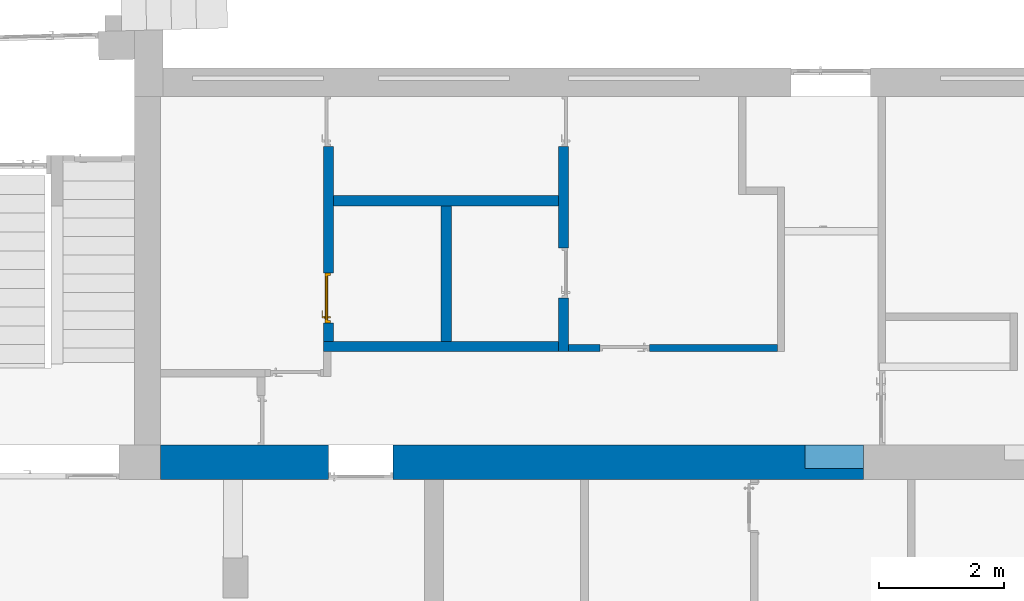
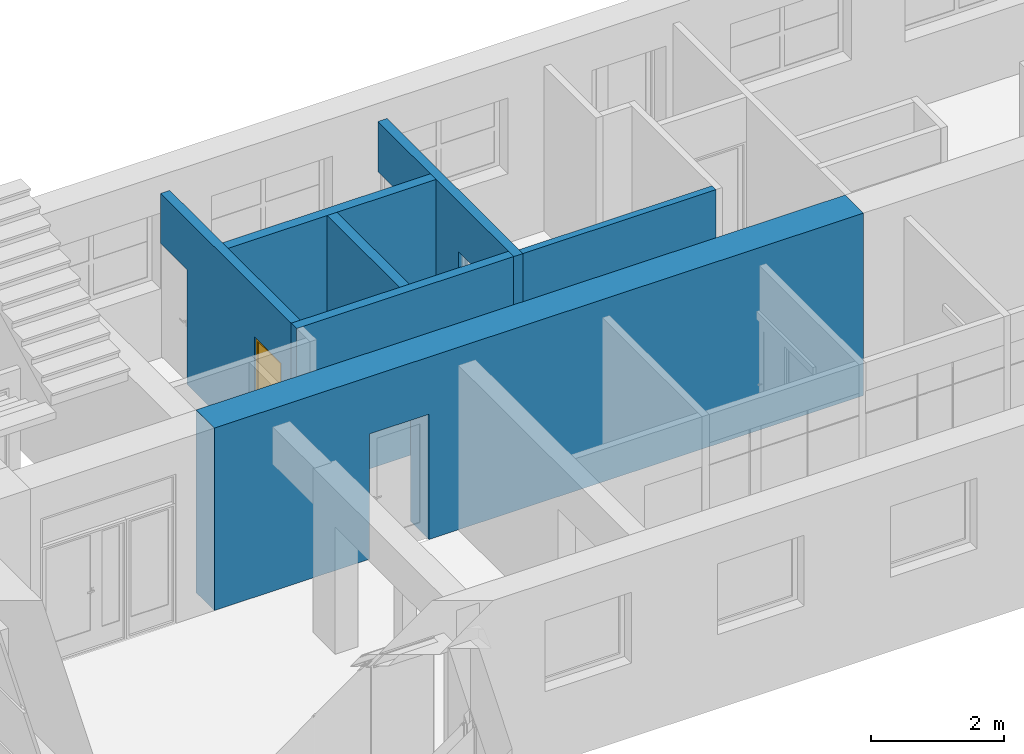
# One storey, part 19 of 49: 7 walls, 1 door, 8 openings.
"""IFC2X3 building model written with IfcOpenShell, lengths in millimetres."""

from ifc_helpers import new_model, entity, si_unit, converted_unit, derived_unit, direction, frame, frame_2d, origin, origin_2d_with_axis, place, context, subcontext, project, spatial, rectangle, extrude, faceted_brep, source, transform, mapped, material, material_list, layer, layer_set, layer_usage, type_object, type_shapes, element, fill, save


model = new_model("IFC2X3")

# Units and contexts
model_context = context("Model", 3, precision=0.01, world=origin(), true_north=direction((6.12303176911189e-17, 1.0)))
body_context = subcontext(model_context, "Body", "Model", "MODEL_VIEW")
ifc_project = project(units=[si_unit("LENGTHUNIT", "METRE", prefix="MILLI"), si_unit("AREAUNIT", "SQUARE_METRE"), si_unit("VOLUMEUNIT", "CUBIC_METRE"), converted_unit("PLANEANGLEUNIT", "DEGREE", entity("IfcRatioMeasure", 0.0174532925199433), si_unit("PLANEANGLEUNIT", "RADIAN"), dimensions=[0, 0, 0, 0, 0, 0, 0]), si_unit("MASSUNIT", "GRAM", prefix="KILO"), derived_unit("MASSDENSITYUNIT", [(si_unit("MASSUNIT", "GRAM", prefix="KILO"), 1), (si_unit("LENGTHUNIT", "METRE"), -3)]), si_unit("TIMEUNIT", "SECOND"), si_unit("FREQUENCYUNIT", "HERTZ"), si_unit("THERMODYNAMICTEMPERATUREUNIT", "DEGREE_CELSIUS"), derived_unit("THERMALTRANSMITTANCEUNIT", [(si_unit("MASSUNIT", "GRAM", prefix="KILO"), 1), (si_unit("THERMODYNAMICTEMPERATUREUNIT", "KELVIN"), -1), (si_unit("TIMEUNIT", "SECOND"), -3)]), derived_unit("VOLUMETRICFLOWRATEUNIT", [(si_unit("LENGTHUNIT", "METRE"), 3), (si_unit("TIMEUNIT", "SECOND"), -1)]), si_unit("ELECTRICCURRENTUNIT", "AMPERE"), si_unit("ELECTRICVOLTAGEUNIT", "VOLT"), si_unit("POWERUNIT", "WATT"), si_unit("FORCEUNIT", "NEWTON", prefix="KILO"), si_unit("ILLUMINANCEUNIT", "LUX"), si_unit("LUMINOUSFLUXUNIT", "LUMEN"), si_unit("LUMINOUSINTENSITYUNIT", "CANDELA"), derived_unit("USERDEFINED", [(si_unit("MASSUNIT", "GRAM", prefix="KILO"), -1), (si_unit("LENGTHUNIT", "METRE"), -2), (si_unit("TIMEUNIT", "SECOND"), 3), (si_unit("LUMINOUSFLUXUNIT", "LUMEN"), 1)]), derived_unit("LINEARVELOCITYUNIT", [(si_unit("LENGTHUNIT", "METRE"), 1), (si_unit("TIMEUNIT", "SECOND"), -1)]), si_unit("PRESSUREUNIT", "PASCAL"), derived_unit("USERDEFINED", [(si_unit("LENGTHUNIT", "METRE"), -2), (si_unit("MASSUNIT", "GRAM", prefix="KILO"), 1), (si_unit("TIMEUNIT", "SECOND"), -2)])], contexts=[model_context])

# Site, building, storey
site_placement = place(None, frame((-151.875543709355, 2715.0, 0.0)))
site = spatial("IfcSite", under=ifc_project, at=site_placement, Name="Surface", CompositionType="ELEMENT")
building_placement = place(site_placement, origin())
building = spatial("IfcBuilding", under=site, at=building_placement, CompositionType="ELEMENT")
storey_placement = place(building_placement, origin())
storey = spatial("IfcBuildingStorey", under=building, at=storey_placement, Name="1 korrus", CompositionType="ELEMENT", Elevation=3.0969999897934e-10)

# Wall, openings
ifc_material_1 = material(Name="__Kips GN13_tava")
ifc_layer_1 = layer(ifc_material_1, 20.0)
ifc_material_2 = material(Name="Masonry - Brick")
ifc_layer_2 = layer(ifc_material_2, 510.0)
ifc_layer_3 = layer(ifc_material_1, 20.0)
ifc_layer_set_1 = layer_set([ifc_layer_1, ifc_layer_2, ifc_layer_3], Name="Basic Wall:SS-1")
ifc_layer_usage_1 = layer_usage(ifc_layer_set_1, "AXIS2", "NEGATIVE", 275.0)
wall_type_1 = type_object("IfcWallType", Name="Basic Wall:SS-1", PredefinedType="STANDARD", material=ifc_layer_set_1)
wall_1_placement = place(storey_placement, frame((4960.87293322, 6285.0, 0.0)))
wall_1 = element("IfcWallStandardCase", 1, at=wall_1_placement, inside=storey, type_object=wall_type_1, material=ifc_layer_usage_1, Name="SEIN - 002", ObjectType="Basic Wall:SS-1", context=body_context, shape_type="SweptSolid", body=[
    extrude(rectangle(XDim=11269.8986084, YDim=550.000000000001, at=frame_2d((5634.9493042, 0.0), x_axis=(-1.0, 0.0))), origin(), (0.0, 0.0, 1.0), 3350.0),
])
opening_1_placement = place(wall_1_placement, origin())
element("IfcOpeningElement", 2, at=opening_1_placement, cuts=wall_1, Name="SEIN - 002", ObjectType="Opening", context=body_context, shape_type="SweptSolid", body=[
    extrude(rectangle(XDim=2317.83347229, YDim=940.612792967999, at=origin_2d_with_axis()), frame((10799.5922119, -97.7088090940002, 1548.916736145), z_axis=(0.0, 1.0, 0.0), x_axis=(0.0, 0.0, 1.0)), (0.0, 0.0, 1.0), 922.708809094),
])
opening_2_placement = place(wall_1_placement, frame((3724.65155255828, 275.0, 0.0)))
element("IfcOpeningElement", 3, at=opening_2_placement, cuts=wall_1, Name="Ühepoolsed:SU-04:1", ObjectType="Opening", context=body_context, shape_type="SweptSolid", body=[
    extrude(rectangle(XDim=2299.99999999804, YDim=1030.0, at=frame_2d((1149.99999999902, 515.0), x_axis=(1.0, 0.0))), frame((0.0, 0.0, 0.0), z_axis=(0.0, -1.0, 0.0), x_axis=(0.0, 0.0, 1.0)), (0.0, 0.0, 1.0), 550.0),
])

# Wall, opening
ifc_layer_4 = layer(ifc_material_1, 12.5)
ifc_layer_5 = layer(ifc_material_1, 12.5)
ifc_material_3 = material(Name="__Soojustus EPS")
ifc_layer_6 = layer(ifc_material_3, 66.0)
ifc_layer_7 = layer(ifc_material_1, 12.5)
ifc_layer_8 = layer(ifc_material_1, 12.5)
ifc_layer_set_2 = layer_set([ifc_layer_4, ifc_layer_5, ifc_layer_6, ifc_layer_7, ifc_layer_8], Name="Basic Wall:SS-3_Kipssein tava ruumide vahel")
ifc_layer_usage_2 = layer_usage(ifc_layer_set_2, "AXIS2", "NEGATIVE", 58.0)
wall_type_2 = type_object("IfcWallType", Name="Basic Wall:SS-3_Kipssein tava ruumide vahel", PredefinedType="STANDARD", material=ifc_layer_set_2)
wall_2_placement = place(storey_placement, frame((11504.3626852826, 8119.30622972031, 0.0)))
wall_2 = element("IfcWallStandardCase", 4, at=wall_2_placement, inside=storey, type_object=wall_type_2, material=ifc_layer_usage_2, Name="Basic Wall:SS-3_Kipssein tava ruumide vahel", ObjectType="Basic Wall:SS-3_Kipssein tava ruumide vahel", context=body_context, shape_type="SweptSolid", body=[
    extrude(rectangle(XDim=3347.12310565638, YDim=116.0, at=frame_2d((1673.56155282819, -1.10134124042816e-13), x_axis=(-1.0, 0.0))), origin(), (0.0, 0.0, 1.0), 3020.0),
])
opening_3_placement = place(wall_2_placement, frame((500.0, -58.0, 0.0)))
element("IfcOpeningElement", 5, at=opening_3_placement, cuts=wall_2, Name="Ühepoolsed:SU-05:1", ObjectType="Opening", context=body_context, shape_type="SweptSolid", body=[
    extrude(rectangle(XDim=2099.99999999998, YDim=800.0, at=frame_2d((1049.99999999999, 400.0), x_axis=(1.0, 0.0))), frame((0.0, 0.0, 0.0), z_axis=(0.0, 1.0, 0.0), x_axis=(0.0, 0.0, 1.0)), (0.0, 0.0, 1.0), 116.0),
])

# Wall, openings
ifc_material_4 = material(Name="Bauroc")
ifc_layer_9 = layer(ifc_material_4, 150.0)
ifc_material_5 = material(Name="Keraamiline_plaat")
ifc_layer_10 = layer(ifc_material_5, 10.0)
ifc_layer_set_3 = layer_set([ifc_layer_9, ifc_layer_10], Name="Basic Wall:SS-8_Bauroc sein niiske ja tava ruumide vahel")
ifc_layer_usage_3 = layer_usage(ifc_layer_set_3, "AXIS2", "POSITIVE", -80.0)
wall_type_3 = type_object("IfcWallType", Name="Basic Wall:SS-8_Bauroc sein niiske ja tava ruumide vahel", PredefinedType="STANDARD", material=ifc_layer_set_3)
wall_3_placement = place(storey_placement, frame((11424.3626852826, 8061.3062297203, 0.0), z_axis=(0.0, 0.0, 1.0), x_axis=(0.0, 1.0, 0.0)))
wall_3 = element("IfcWallStandardCase", 6, at=wall_3_placement, inside=storey, type_object=wall_type_3, material=ifc_layer_usage_3, Name="Basic Wall:SS-8_Bauroc sein niiske ja tava ruumide vahel", ObjectType="Basic Wall:SS-8_Bauroc sein niiske ja tava ruumide vahel", context=body_context, shape_type="SweptSolid", body=[
    extrude(rectangle(XDim=4088.69377027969, YDim=159.999999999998, at=frame_2d((2044.34688513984, 4.90274487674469e-13), x_axis=(-1.0, 0.0))), origin(), (0.0, 0.0, 1.0), 3020.0),
])
opening_4_placement = place(wall_3_placement, frame((4088.69377027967, 80.0, 0.0)))
element("IfcOpeningElement", 7, at=opening_4_placement, cuts=wall_3, Name="Ühepoolsed:SU-05:1", ObjectType="Opening", context=body_context, shape_type="SweptSolid", body=[
    extrude(rectangle(XDim=2099.99999999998, YDim=800.0, at=frame_2d((1049.99999999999, 400.0), x_axis=(1.0, 0.0))), frame((0.0, 0.0, 0.0), z_axis=(0.0, -1.0, 0.0), x_axis=(0.0, 0.0, 1.0)), (0.0, 0.0, 1.0), 160.0),
])
opening_5_placement = place(wall_3_placement, frame((1660.0, 80.0, 0.0)))
element("IfcOpeningElement", 8, at=opening_5_placement, cuts=wall_3, Name="Ühepoolsed:SU-08.:1", ObjectType="Opening", context=body_context, shape_type="SweptSolid", body=[
    extrude(rectangle(XDim=2099.99999999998, YDim=800.0, at=frame_2d((1049.99999999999, 400.0), x_axis=(1.0, 0.0))), frame((0.0, 0.0, 0.0), z_axis=(0.0, -1.0, 0.0), x_axis=(0.0, 0.0, 1.0)), (0.0, 0.0, 1.0), 160.0),
])

# Wall, opening
ifc_layer_usage_4 = layer_usage(ifc_layer_set_3, "AXIS2", "POSITIVE", -80.0)
wall_4_placement = place(storey_placement, frame((7573.72087425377, 8141.30622972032, 0.0)))
wall_4 = element("IfcWallStandardCase", 9, at=wall_4_placement, inside=storey, type_object=wall_type_3, material=ifc_layer_usage_4, Name="Basic Wall:SS-8_Bauroc sein niiske ja tava ruumide vahel", ObjectType="Basic Wall:SS-8_Bauroc sein niiske ja tava ruumide vahel", context=body_context, shape_type="SweptSolid", body=[
    extrude(rectangle(XDim=3770.64181102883, YDim=160.0, at=frame_2d((1885.32090551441, 8.5265128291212e-14), x_axis=(-1.0, 0.0))), origin(), (0.0, 0.0, 1.0), 3020.0),
])
opening_6_placement = place(wall_4_placement, origin())
element("IfcOpeningElement", 10, at=opening_6_placement, cuts=wall_4, Name="Basic Wall:SS-8_Bauroc sein niiske ja tava ruumide vahel", ObjectType="Opening", context=body_context, shape_type="SweptSolid", body=[
    extrude(rectangle(XDim=2099.99999999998, YDim=160.0, at=frame_2d((0.0, 0.0), x_axis=(0.0, 1.0))), frame((80.0, 380.0, 1050.0), z_axis=(0.0, 1.0, 0.0), x_axis=(-1.0, 0.0, 0.0)), (0.0, 0.0, 1.0), 800.0),
])

# Wall, openings, door
ifc_layer_usage_5 = layer_usage(ifc_layer_set_3, "AXIS2", "NEGATIVE", 80.0)
wall_5_placement = place(storey_placement, frame((7653.72087425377, 8221.30622972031, 0.0), z_axis=(0.0, 0.0, 1.0), x_axis=(0.0, 1.0, 0.0)))
wall_5 = element("IfcWallStandardCase", 11, at=wall_5_placement, inside=storey, type_object=wall_type_3, material=ifc_layer_usage_5, Name="Basic Wall:SS-8_Bauroc sein niiske ja tava ruumide vahel", ObjectType="Basic Wall:SS-8_Bauroc sein niiske ja tava ruumide vahel", context=body_context, shape_type="SweptSolid", body=[
    extrude(rectangle(XDim=3928.69377027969, YDim=160.0, at=frame_2d((1964.34688513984, -3.5527136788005e-14), x_axis=(-1.0, 0.0))), origin(), (0.0, 0.0, 1.0), 3020.0),
])
opening_7_placement = place(wall_5_placement, frame((300.0, -80.0, 0.0)))
opening_7 = element("IfcOpeningElement", 12, at=opening_7_placement, cuts=wall_5, Name="Ühepoolsed:SU-08:1", ObjectType="Opening", context=body_context, shape_type="SweptSolid", body=[
    extrude(rectangle(XDim=2099.99999999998, YDim=800.0, at=frame_2d((1049.99999999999, 400.0), x_axis=(1.0, 0.0))), frame((0.0, 0.0, 0.0), z_axis=(0.0, 1.0, 0.0), x_axis=(0.0, 0.0, 1.0)), (0.0, 0.0, 1.0), 160.0),
])
opening_8_placement = place(wall_5_placement, frame((3128.69377027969, -80.0, 0.0)))
element("IfcOpeningElement", 13, at=opening_8_placement, cuts=wall_5, Name="Ühepoolsed:SU-05.:1", ObjectType="Opening", context=body_context, shape_type="SweptSolid", body=[
    extrude(rectangle(XDim=2099.99999999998, YDim=800.0, at=frame_2d((1049.99999999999, 400.0), x_axis=(1.0, 0.0))), frame((0.0, 0.0, 0.0), z_axis=(0.0, 1.0, 0.0), x_axis=(0.0, 0.0, 1.0)), (0.0, 0.0, 1.0), 160.0),
])
ifc_material_6 = material(Name="_Alumiiniumprofiil - must")
ifc_material_7 = material(Name="__Uks_hele tamm")
ifc_material_8 = material(Name="Glass")
ifc_material_list_1 = material_list([ifc_material_6, ifc_material_7, ifc_material_8])
ifc_material_list_2 = material_list([ifc_material_6, ifc_material_7, ifc_material_8])
door_style = type_object("IfcDoorStyle", Name="SU-08", ConstructionType="NOTDEFINED", OperationType="FOLDING_TO_LEFT", ParameterTakesPrecedence=False, Sizeable=False, material=ifc_material_list_2)
shared_shape = source(origin(), body_context, "Body", "Brep", [
    faceted_brep([(100.0, 50.0, 1112.5), (100.0, 88.0, 1112.5), (75.0, 88.0, 1112.5), (75.0, 45.0, 1112.5), (195.0, 45.0, 1112.5), (195.0, 50.0, 1112.5), (100.0, 50.0, 1087.5), (195.0, 50.0, 1087.5), (195.0, 45.0, 1087.5), (75.0, 45.0, 1087.5), (75.0, 88.0, 1087.5), (100.0, 88.0, 1087.5)], [[[0, 1, 2, 3, 4, 5]], [[6, 7, 8, 9, 10, 11]], [[1, 0, 6, 11]], [[2, 1, 11, 10]], [[3, 2, 10, 9]], [[4, 3, 9, 8]], [[5, 4, 8, 7]], [[0, 5, 7, 6]]]),
    faceted_brep([(112.5, 88.0, 1137.5), (112.5, 90.0, 1137.5), (62.5000000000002, 90.0, 1137.5), (62.5000000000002, 88.0, 1137.5), (112.5, 88.0, 1017.5), (62.5000000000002, 88.0, 1017.5), (62.5000000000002, 90.0, 1017.5), (112.5, 90.0, 1017.5)], [[[0, 1, 2, 3]], [[4, 5, 6, 7]], [[1, 0, 4, 7]], [[2, 1, 7, 6]], [[3, 2, 6, 5]], [[0, 3, 5, 4]]]),
    faceted_brep([(100.0, 180.0, 1112.5), (195.0, 180.0, 1112.5), (195.0, 185.0, 1112.5), (75.0, 185.0, 1112.5), (75.0, 142.0, 1112.5), (100.0, 142.0, 1112.5), (100.0, 180.0, 1087.5), (100.0, 142.0, 1087.5), (75.0, 142.0, 1087.5), (75.0, 185.0, 1087.5), (195.0, 185.0, 1087.5), (195.0, 180.0, 1087.5)], [[[0, 1, 2, 3, 4, 5]], [[6, 7, 8, 9, 10, 11]], [[5, 7, 6, 0]], [[4, 8, 7, 5]], [[3, 9, 8, 4]], [[2, 10, 9, 3]], [[1, 11, 10, 2]], [[0, 6, 11, 1]]]),
    faceted_brep([(112.5, 142.0, 1137.5), (62.5000000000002, 142.0, 1137.5), (62.5000000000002, 140.0, 1137.5), (112.5, 140.0, 1137.5), (112.5, 142.0, 1017.5), (112.5, 140.0, 1017.5), (62.5000000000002, 140.0, 1017.5), (62.5000000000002, 142.0, 1017.5)], [[[0, 1, 2, 3]], [[4, 5, 6, 7]], [[3, 5, 4, 0]], [[2, 6, 5, 3]], [[1, 7, 6, 2]], [[0, 4, 7, 1]]]),
    faceted_brep([(800.0, 50.0, 0.0), (760.0, 50.0, 0.0), (760.0, 90.0, 0.0), (775.0, 90.0, 0.0), (775.0, 140.0, 0.0), (800.0, 140.0, 0.0), (800.0, 50.0, 2100.0), (0.0, 50.0, 2100.0), (0.0, 50.0, 0.0), (40.0, 50.0, 0.0), (40.0, 50.0, 2060.0), (760.0, 50.0, 2060.0), (760.0, 90.0, 2060.0), (40.0, 90.0, 2060.0), (40.0, 90.0, 0.0), (25.0, 90.0, 0.0), (25.0, 90.0, 2075.0), (775.0, 90.0, 2075.0), (775.0, 140.0, 2075.0), (25.0, 140.0, 2075.0), (25.0, 140.0, 0.0), (0.0, 140.0, 0.0), (0.0, 140.0, 2100.0), (800.0, 140.0, 2100.0)], [[[0, 1, 2, 3, 4, 5]], [[1, 0, 6, 7, 8, 9, 10, 11]], [[2, 1, 11, 12]], [[3, 2, 12, 13, 14, 15, 16, 17]], [[4, 3, 17, 18]], [[5, 4, 18, 19, 20, 21, 22, 23]], [[0, 5, 23, 6]], [[8, 7, 22, 21]], [[9, 8, 21, 20, 15, 14]], [[10, 9, 14, 13]], [[16, 15, 20, 19]], [[11, 10, 13, 12]], [[17, 16, 19, 18]], [[7, 6, 23, 22]]]),
    faceted_brep([(750.0, 105.0, 50.0), (750.0, 105.0, 2050.0), (50.0, 105.0, 2050.0), (50.0, 105.0, 50.0), (750.0, 125.0, 50.0), (50.0, 125.0, 50.0), (50.0, 125.0, 2050.0), (750.0, 125.0, 2050.0)], [[[0, 1, 2, 3]], [[4, 5, 6, 7]], [[1, 0, 4, 7]], [[2, 1, 7, 6]], [[3, 2, 6, 5]], [[0, 3, 5, 4]]]),
    faceted_brep([(775.0, 90.0, 20.0), (775.0, 90.0, 2075.0), (25.0, 90.0, 2075.0), (25.0, 90.0, 20.0), (50.0, 90.0, 50.0), (50.0, 90.0, 2050.0), (750.0, 90.0, 2050.0), (750.0, 90.0, 50.0), (775.0, 140.0, 20.0), (25.0, 140.0, 20.0), (25.0, 140.0, 2075.0), (775.0, 140.0, 2075.0), (50.0, 140.0, 2050.0), (50.0, 140.0, 50.0), (750.0, 140.0, 50.0), (750.0, 140.0, 2050.0)], [[[0, 1, 2, 3], [4, 5, 6, 7]], [[8, 9, 10, 11], [12, 13, 14, 15]], [[1, 0, 8, 11]], [[2, 1, 11, 10]], [[3, 2, 10, 9]], [[0, 3, 9, 8]], [[12, 5, 4, 13]], [[13, 4, 7, 14]], [[14, 7, 6, 15]], [[5, 12, 15, 6]]]),
])
type_shapes(door_style, [shared_shape])
door_placement = place(opening_7_placement, origin())
door = element("IfcDoor", 14, at=door_placement, inside=storey, type_object=door_style, material=ifc_material_list_1, Name="Ühepoolsed:SU-08", ObjectType="SU-08", OverallHeight=2099.99999999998, OverallWidth=800.0, context=body_context, shape_type="MappedRepresentation", body=[
    mapped(shared_shape, transform((0.0, 0.0, 0.0), scale=1.0)),
])
fill(opening_7, door)

# Walls
ifc_layer_11 = layer(ifc_material_5, 10.0)
ifc_layer_12 = layer(ifc_material_4, 150.0)
ifc_layer_13 = layer(ifc_material_5, 10.0)
ifc_layer_set_4 = layer_set([ifc_layer_11, ifc_layer_12, ifc_layer_13], Name="Basic Wall:SS-7_Bauroc sein niiskete ruumide vahel")
ifc_layer_usage_6 = layer_usage(ifc_layer_set_4, "AXIS2", "POSITIVE", -85.0)
wall_type_4 = type_object("IfcWallType", Name="Basic Wall:SS-7_Bauroc sein niiskete ruumide vahel", PredefinedType="STANDARD", material=ifc_layer_set_4)
wall_6_placement = place(storey_placement, frame((9539.18626653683, 8221.30622972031, 0.0), z_axis=(0.0, 0.0, 1.0), x_axis=(0.0, 1.0, 0.0)))
element("IfcWallStandardCase", 15, at=wall_6_placement, inside=storey, type_object=wall_type_4, material=ifc_layer_usage_6, Name="Basic Wall:SS-7_Bauroc sein niiskete ruumide vahel", ObjectType="Basic Wall:SS-7_Bauroc sein niiskete ruumide vahel", context=body_context, shape_type="SweptSolid", body=[
    extrude(rectangle(XDim=2174.69203111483, YDim=170.0, at=frame_2d((1087.34601555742, 1.35003119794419e-13), x_axis=(-1.0, 0.0))), origin(), (0.0, 0.0, 1.0), 3020.0),
])
ifc_layer_usage_7 = layer_usage(ifc_layer_set_4, "AXIS2", "NEGATIVE", 85.0)
wall_7_placement = place(storey_placement, frame((7733.72087425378, 10480.9982608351, 0.0)))
element("IfcWallStandardCase", 16, at=wall_7_placement, inside=storey, type_object=wall_type_4, material=ifc_layer_usage_7, Name="Basic Wall:SS-7_Bauroc sein niiskete ruumide vahel", ObjectType="Basic Wall:SS-7_Bauroc sein niiskete ruumide vahel", context=body_context, shape_type="SweptSolid", body=[
    extrude(rectangle(XDim=3610.64181102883, YDim=170.0, at=frame_2d((1805.32090551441, -1.98951966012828e-13), x_axis=(-1.0, 0.0))), origin(), (0.0, 0.0, 1.0), 3020.0),
])

save(model, "model.ifc")
